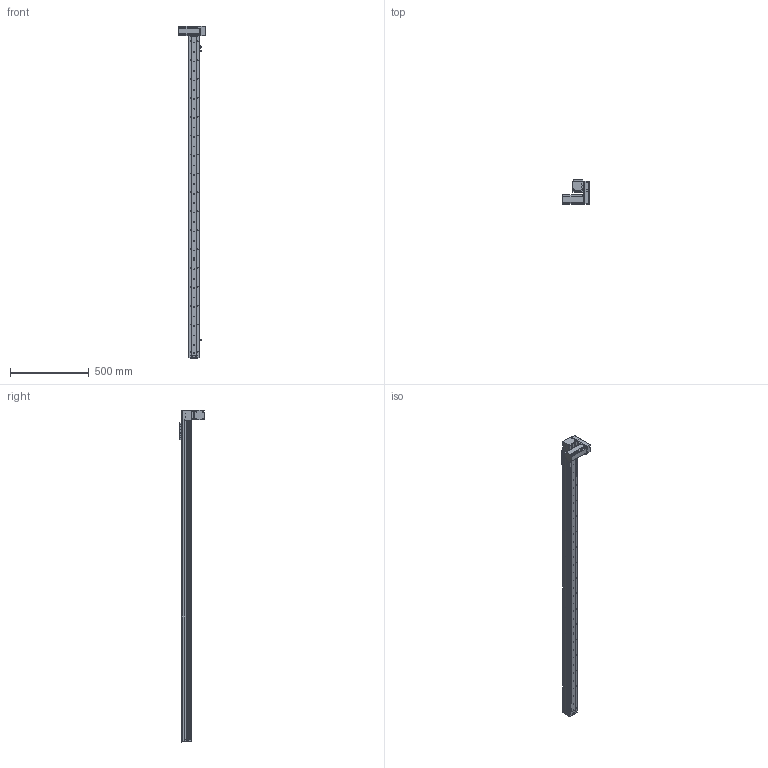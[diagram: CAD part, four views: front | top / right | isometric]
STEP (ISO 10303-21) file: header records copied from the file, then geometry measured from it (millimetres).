
FILE_DESCRIPTION (( 'STEP AP214' ), '1' );
FILE_NAME ('KSD68BS-S1850-MLD-CR.STEP', '2019-11-07T05:58:51', ( '微软用户' ), ( '微软中国' ), 'SwSTEP 2.0', 'SolidWorks 2014', '' );
FILE_SCHEMA (( 'AUTOMOTIVE_DESIGN' ));
Length unit declared in the file: millimetre
Products named in the file (14): 68宽单导轨全封闭丝杆传动安装板1防护罩; KSD68BS 1850行程侧板全封闭; 68宽单导轨全封闭同步带端板; 68单导轨全封闭同步带电机座左; 68单导轨全封闭同步带安装板; 悵誘欶奻狟殏; 68宽马达安装板连板上折同步带; 感应片68宽全封闭; U倰嫖萇EEㄜSX672; 台达ECMA－C20604AS伺服电机（400W); KSD68BS 1850行程底板全封闭; KSD68BS-S1850-MLD-CR; KSD68BS 1850行程盖板全封闭; 68遵裔啣揤啣1
Assembly tree (17 placements, depth 2):
  KSD68BS-S1850-MLD-CR
    KSD68BS 1850行程底板全封闭
    台达ECMA－C20604AS伺服电机（400W)
    U倰嫖萇EEㄜSX672  x3
    感应片68宽全封闭
    68宽马达安装板连板上折同步带
    悵誘欶奻狟殏
    68单导轨全封闭同步带安装板
    68单导轨全封闭同步带电机座左
    68宽单导轨全封闭同步带端板
    KSD68BS 1850行程侧板全封闭  x2
    68宽单导轨全封闭丝杆传动安装板1防护罩
    68遵裔啣揤啣1  x2
    KSD68BS 1850行程盖板全封闭
Bounding box: 167.2 x 155.5 x 2108.1 mm (x, y, z)
Volume: 3681881.5 mm3; surface area: 1511967.7 mm2
Topology: 18 solids, 18 shells, 1637 faces, 4731 edges, 3012 vertices
Faces by surface type: cylinder 812, plane 629, cone 196
Entity records: 53895 total; most frequent: CARTESIAN_POINT 9435, DIRECTION 8002, ORIENTED_EDGE 7658, EDGE_CURVE 3829, AXIS2_PLACEMENT_3D 2927, VERTEX_POINT 2510, VECTOR 2148, LINE 2148
